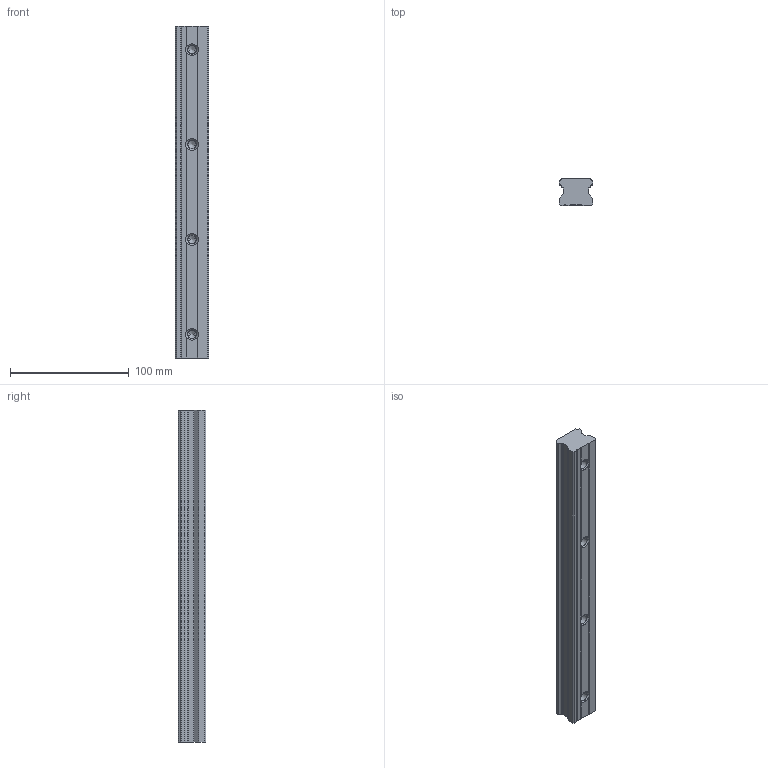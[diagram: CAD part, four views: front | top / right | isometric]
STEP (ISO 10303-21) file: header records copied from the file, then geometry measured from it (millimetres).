
FILE_DESCRIPTION (( 'STEP AP203' ), '1' );
FILE_NAME ('SBI 30 - B.STEP', '2014-08-05T09:29:22', ( 'star' ), ( '' ), 'SwSTEP 2.0', 'SolidWorks 2013', '' );
FILE_SCHEMA (( 'CONFIG_CONTROL_DESIGN' ));
Length unit declared in the file: millimetre
Products named in the file (1): SBI 30 - B
Bounding box: 28 x 23 x 280 mm (x, y, z)
Volume: 157624.9 mm3; surface area: 31986.4 mm2
Topology: 1 solids, 1 shells, 96 faces, 262 edges, 160 vertices
Faces by surface type: plane 39, cylinder 33, cone 24
Entity records: 3121 total; most frequent: CARTESIAN_POINT 671, ORIENTED_EDGE 508, DIRECTION 490, EDGE_CURVE 254, AXIS2_PLACEMENT_3D 171, VERTEX_POINT 160, LINE 148, VECTOR 148
